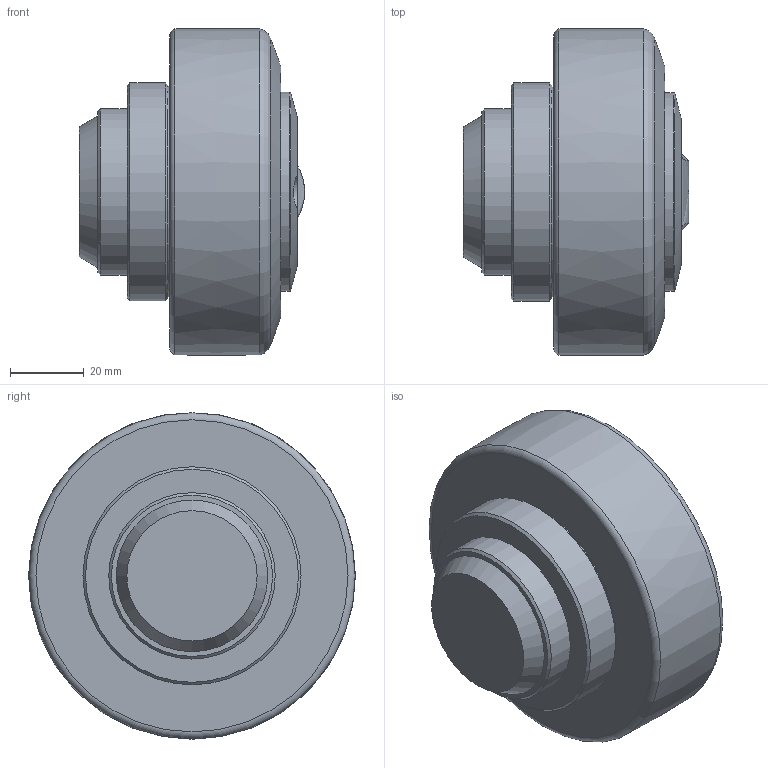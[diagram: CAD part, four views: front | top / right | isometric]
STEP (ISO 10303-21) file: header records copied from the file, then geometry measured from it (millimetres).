
FILE_DESCRIPTION((''),'2;1');
FILE_NAME('C:\Users\manolo mussida\Desktop\400-0076.stp','2020-10-28T08:59:28',('manolo mussida'),(''),'Autodesk Inventor 2013','Autodesk Inventor 2013','');
FILE_SCHEMA(('AUTOMOTIVE_DESIGN { 1 0 10303 214 1 1 1 1 }'));
Length unit declared in the file: millimetre
Products named in the file (1): 400-0076
Bounding box: 61 x 88.4 x 88.31 mm (x, y, z)
Volume: 237180.8 mm3; surface area: 23814.3 mm2
Topology: 1 solids, 1 shells, 42 faces, 95 edges, 62 vertices
Faces by surface type: plane 23, cylinder 6, cone 6, bspline 4, torus 3
Full cylindrical faces by diameter (mm): 8.5 x2, 45 x1, 53.8 x1, 57 x1, 59 x1
Entity records: 1451 total; most frequent: CARTESIAN_POINT 587, DIRECTION 164, ORIENTED_EDGE 146, EDGE_CURVE 73, EDGE_LOOP 66, AXIS2_PLACEMENT_3D 64, VERTEX_POINT 57, FACE_OUTER_BOUND 42
